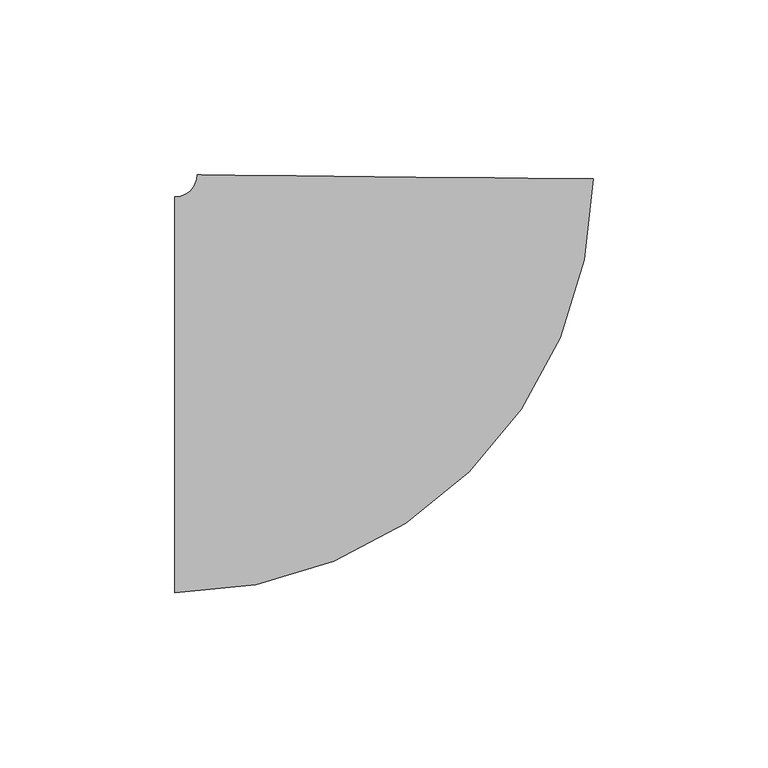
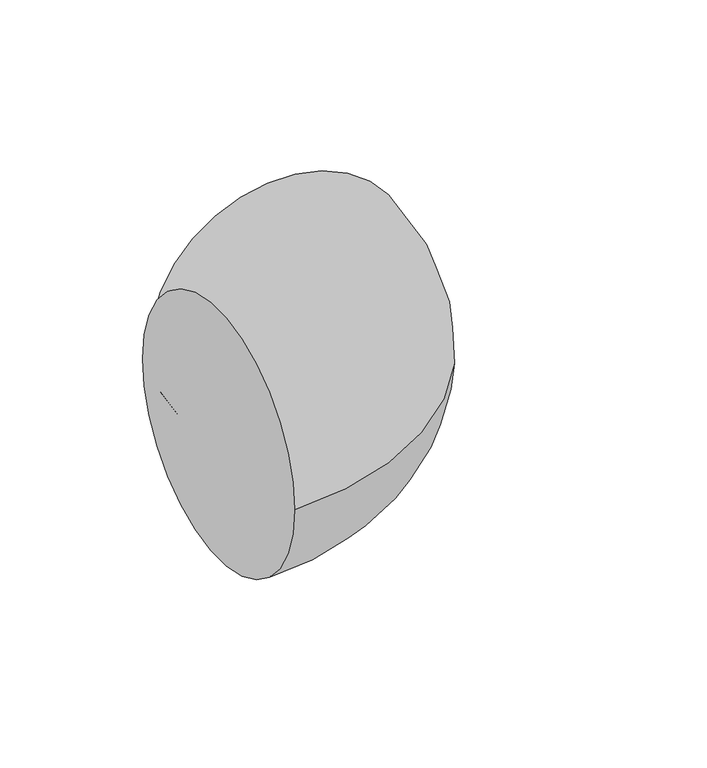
"""IFC4 building model written with IfcOpenShell, lengths in millimetres: pipe fitting geometry, M_Codo - Genérico : Estándar."""

from ifc_helpers import new_model, si_unit, point, frame, origin, place, context, project, spatial, circle_curve, ellipse_curve, trimmed, source, transform, mapped, element, save
from ifc_brep_helpers import plane_surface, revolved_surface, advanced_brep


def pipe_fitting_aab77541(model_context):
    return source(origin(), model_context, "Body", "AdvancedBrep", [
        advanced_brep(
        [(-62.3112718, -56.5875, 0.0), (-62.3112718, 56.5875, 0.0), (57.2077524, 61.7423098, 0.0), (-55.9615893, 62.8740032, 0.0)],
        [
            (0, 1, circle_curve(frame((-62.3112718, 0.0, 0.0), z_axis=(-1.0, 0.0, 0.0), x_axis=(0.0, 1.0, 0.0)), 56.5875)),
            (1, 0, circle_curve(frame((-62.3112718, 0.0, 0.0), z_axis=(-1.0, 0.0, 0.0), x_axis=(0.0, 1.0, 0.0)), 56.5875)),
            (2, 3, circle_curve(frame((0.6230816, 62.3081565, 0.0), z_axis=(0.009999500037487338, 0.9999500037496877, 0.0), x_axis=(-0.9999500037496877, 0.009999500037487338, 0.0)), 56.5875)),
            (3, 2, circle_curve(frame((0.6230816, 62.3081565, 0.0), z_axis=(0.009999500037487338, 0.9999500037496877, 0.0), x_axis=(-0.9999500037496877, 0.009999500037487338, 0.0)), 56.5875)),
            (3, 1, circle_curve(frame((-62.3112718, 62.9375, 0.0), z_axis=(0.0, 0.0, -1.0), x_axis=(0.0, -1.0, 0.0)), 6.35)),
            (0, 2, circle_curve(frame((-62.3112718, 62.9375, 0.0), z_axis=(0.0, 0.0, 1.0), x_axis=(0.0, -1.0, 0.0)), 119.525)),
        ],
        [
            plane_surface(frame((-62.3112718, 0.0, 0.0), z_axis=(-1.0, 0.0, 0.0), x_axis=(0.0, 0.0, 1.0))),
            plane_surface(frame((0.6230816, 62.3081565, 0.0), z_axis=(0.00999950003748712, 0.9999500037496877, 0.0), x_axis=(0.0, 0.0, 1.0))),
            revolved_surface(trimmed(ellipse_curve(frame((-62.3112718, 0.0, 0.0), z_axis=(-1.0, 0.0, 0.0), x_axis=(0.0, 1.0, 0.0)), 56.5875, 56.5875), [point((-62.3112718, -56.5875, 0.0))], [point((-62.3112718, 56.5875, 0.0))], True, "CARTESIAN"), (-62.3112718, 62.9375, 0.0), (0.0, 0.0, 1.0)),
            revolved_surface(trimmed(ellipse_curve(frame((-62.3112718, 0.0, 0.0), z_axis=(-1.0, 0.0, 0.0), x_axis=(0.0, 1.0, 0.0)), 56.5875, 56.5875), [point((-62.3112718, 56.5875, 0.0))], [point((-62.3112718, -56.5875, 0.0))], True, "CARTESIAN"), (-62.3112718, 62.9375, 0.0), (0.0, 0.0, 1.0)),
        ],
        [
            (0, [[1, 2]]),
            (1, [[3, 4]]),
            (2, [[5, -1, 6, -4]]),
            (3, [[-6, -2, -5, -3]]),
        ],
    ),
    ])


if __name__ == "__main__":
    model = new_model("IFC4")
    model_context = context("Model", 3, world=origin())
    ifc_project = project(units=[si_unit("LENGTHUNIT", "METRE", prefix="MILLI")], contexts=[model_context])
    site = spatial("IfcSite", under=ifc_project)
    building = spatial("IfcBuilding", under=site)
    placement = place(None, origin())
    pipe_fitting_shape = pipe_fitting_aab77541(model_context)
    element("IfcPipeFitting", 1, ObjectType="M_Codo - Genérico : Estándar", at=placement, inside=building, context=model_context, shape_type="MappedRepresentation", body=[
        mapped(pipe_fitting_shape, transform((0.0, 0.0, 0.0), x_axis=(1.0, 0.0, 0.0), y_axis=(0.0, 1.0, 0.0), z_axis=(0.0, 0.0, 1.0))),
    ])
    save(model, "model.ifc")
